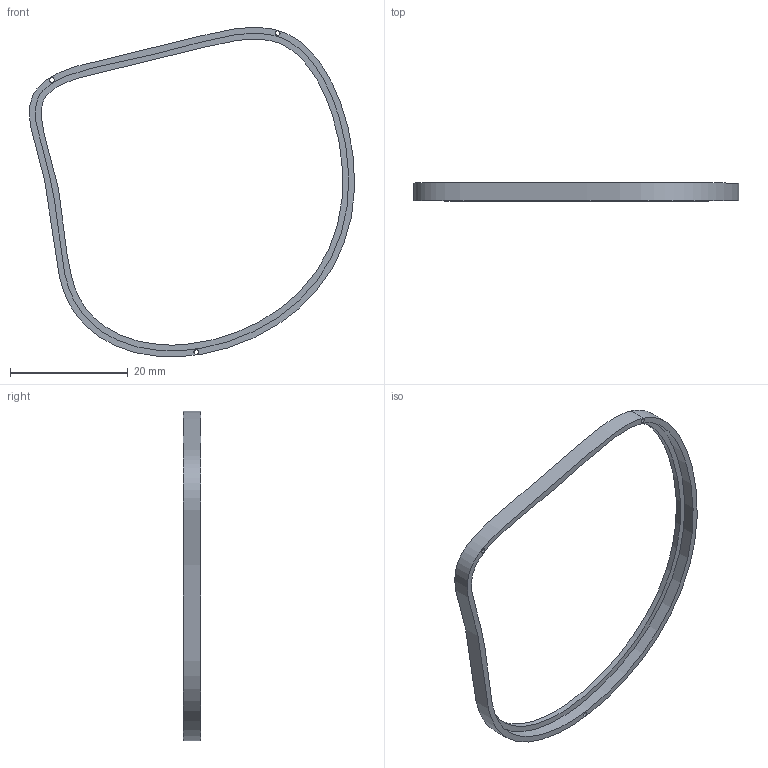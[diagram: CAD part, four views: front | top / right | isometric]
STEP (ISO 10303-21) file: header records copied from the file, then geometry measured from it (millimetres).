
FILE_DESCRIPTION(/* description */ ('STEP AP242 Edition 2','CAx-IF Rec.Pracs.---Representation and Presentation of Product Manufacturing Information (PMI)---4.0---2014-10-13','CAx-IF Rec.Pracs.---3D Tessellated Geometry---0.4---2014-09-14','2;1','CAx-IF Rec.Pracs.---User Defined Attributes---1.5---2016-08-15'),/* implementation_level */ '2;1');
FILE_NAME(/* name */ 'main - Part 34 - bottom right lens holder',/* time_stamp */ '2026-11-08T20:03:44Z',/* author */ (''),/* organization */ (''),/* preprocessor_version */ 'ST-DEVELOPER v20',/* originating_system */ 'ONSHAPE BY PTC INC, 1.223',/* authorisation */ ' ');
FILE_SCHEMA (('AP242_MANAGED_MODEL_BASED_3D_ENGINEERING_MIM_LF { 1 0 10303 442 3 1 4 }'));
Length unit declared in the file: metre
Products named in the file (1): Part 34 - bottom right lens holder
Bounding box: 55.12 x 3 x 55.84 mm (x, y, z)
Volume: 722.8 mm3; surface area: 1756.4 mm2
Topology: 1 solids, 1 shells, 9 faces, 18 edges, 12 vertices
Faces by surface type: bspline 3, plane 3, cylinder 3
Full cylindrical faces by diameter (mm): 0.8 x3
Entity records: 1520 total; most frequent: CARTESIAN_POINT 1329, DIRECTION 26, ORIENTED_EDGE 24, EDGE_LOOP 24, FACE_BOUND 24, AXIS2_PLACEMENT_3D 13, EDGE_CURVE 12, VERTEX_POINT 12
